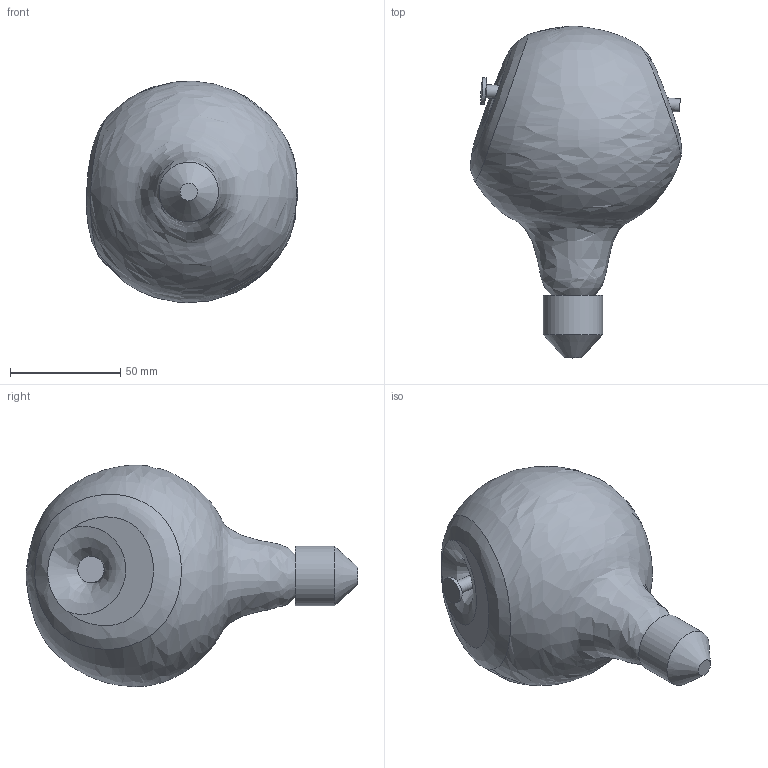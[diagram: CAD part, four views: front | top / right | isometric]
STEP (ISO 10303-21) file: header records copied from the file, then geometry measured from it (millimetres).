
FILE_DESCRIPTION(/* description */ (''),/* implementation_level */ '2;1');
FILE_NAME(/* name */ 'C:\Users\Giulia\Desktop\1513 - EDISON''S NIGHTMARE.stp',/* time_stamp */ '2015-06-16T09:13:16+02:00',/* author */ ('Giulia'),/* organization */ (''),/* preprocessor_version */ 'ST-DEVELOPER v15.6',/* originating_system */ 'Autodesk Inventor 2015',/* authorisation */ '');
FILE_SCHEMA (('AUTOMOTIVE_DESIGN { 1 0 10303 214 3 1 1 }'));
Length unit declared in the file: centimetre
Products named in the file (1): 1513 - EDISON'S NIGHTMARE
Bounding box: 95.83 x 150.47 x 100.48 mm (x, y, z)
Volume: 512604.2 mm3; surface area: 38693.3 mm2
Topology: 2 solids, 2 shells, 17 faces, 38 edges, 25 vertices
Faces by surface type: plane 6, bspline 6, cylinder 3, cone 2
Full cylindrical faces by diameter (mm): 6 x1, 12 x1, 27 x1
Entity records: 1430 total; most frequent: CARTESIAN_POINT 1067, ORIENTED_EDGE 60, DIRECTION 46, EDGE_CURVE 30, EDGE_LOOP 25, VERTEX_POINT 23, AXIS2_PLACEMENT_3D 23, B_SPLINE_CURVE_WITH_KNOTS 19
